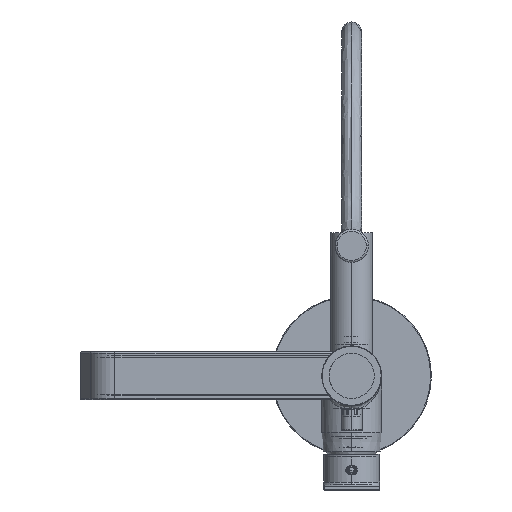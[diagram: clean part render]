
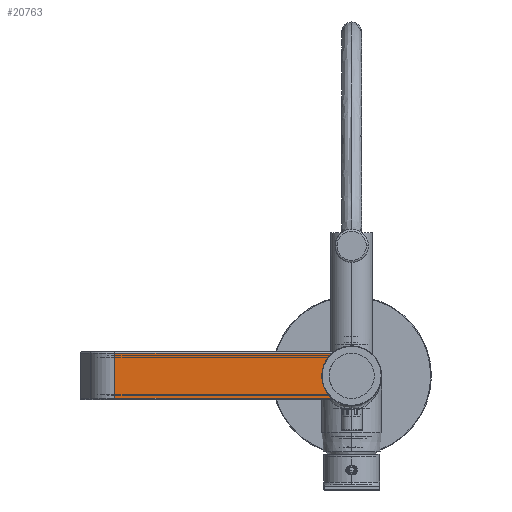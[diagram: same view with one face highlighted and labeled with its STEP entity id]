
A CAD part, front view. The second image highlights one B-rep face of the part: STEP entity #20763.
In plain terms, the highlighted planar face has unit normal (0, -1, 0).
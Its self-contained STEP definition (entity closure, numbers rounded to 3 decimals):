
#18807=CARTESIAN_POINT('',(0.,-291.8,0.));
#18808=DIRECTION('',(0.,1.,0.));
#18809=DIRECTION('',(-0.655,0.,-0.756));
#18810=AXIS2_PLACEMENT_3D('',#18807,#18808,#18809);
#18817=DIRECTION('',(-1.,0.,0.));
#18818=VECTOR('',#18817,163.389);
#18819=CARTESIAN_POINT('',(-14.739,-291.8,-17.));
#18820=LINE('',#18819,#18818);
#18821=DIRECTION('',(0.,0.,-1.));
#18822=VECTOR('',#18821,34.);
#18823=CARTESIAN_POINT('',(-178.128,-291.8,17.));
#18824=LINE('',#18823,#18822);
#18825=DIRECTION('',(1.,0.,0.));
#18826=VECTOR('',#18825,163.389);
#18827=CARTESIAN_POINT('',(-178.128,-291.8,17.));
#18828=LINE('',#18827,#18826);
#19563=CARTESIAN_POINT('',(-178.128,-291.8,-17.));
#19564=VERTEX_POINT('',#19563);
#19570=CARTESIAN_POINT('',(-178.128,-291.8,17.));
#19572=VERTEX_POINT('',#19570);
#19629=CARTESIAN_POINT('',(-14.739,-291.8,-17.));
#19630=CARTESIAN_POINT('',(-14.739,-291.8,17.));
#19631=VERTEX_POINT('',#19629);
#19632=VERTEX_POINT('',#19630);
#20749=CARTESIAN_POINT('',(-187.231,-291.8,18.));
#20750=DIRECTION('',(0.,-1.,0.));
#20751=DIRECTION('',(0.,0.,-1.));
#20752=AXIS2_PLACEMENT_3D('',#20749,#20750,#20751);
#20753=PLANE('',#20752);
#20754=ORIENTED_EDGE('',*,*,#20736,.F.);
#20756=ORIENTED_EDGE('',*,*,#20755,.T.);
#20758=ORIENTED_EDGE('',*,*,#20757,.F.);
#20760=ORIENTED_EDGE('',*,*,#20759,.T.);
#20761=EDGE_LOOP('',(#20754,#20756,#20758,#20760));
#20762=FACE_OUTER_BOUND('',#20761,.F.);
#20763=ADVANCED_FACE('',(#20762),#20753,.T.);
#18811=CIRCLE('',#18810,22.5);
#20736=EDGE_CURVE('',#19631,#19632,#18811,.T.);
#20755=EDGE_CURVE('',#19631,#19564,#18820,.T.);
#20757=EDGE_CURVE('',#19572,#19564,#18824,.T.);
#20759=EDGE_CURVE('',#19572,#19632,#18828,.T.);
